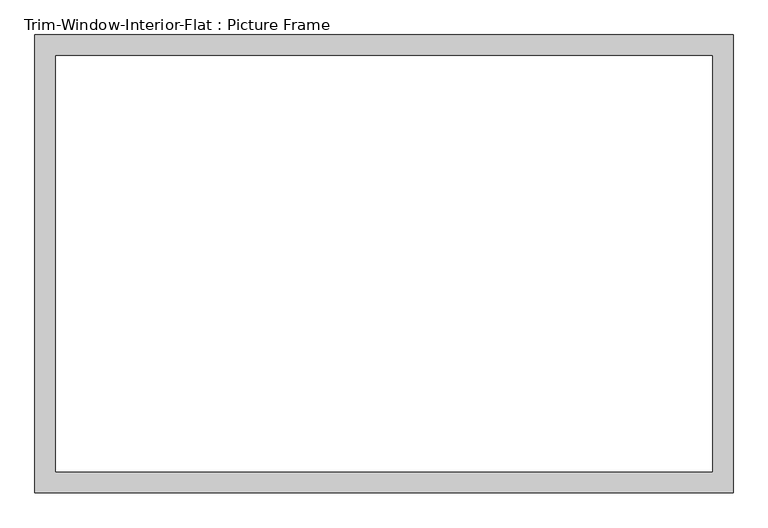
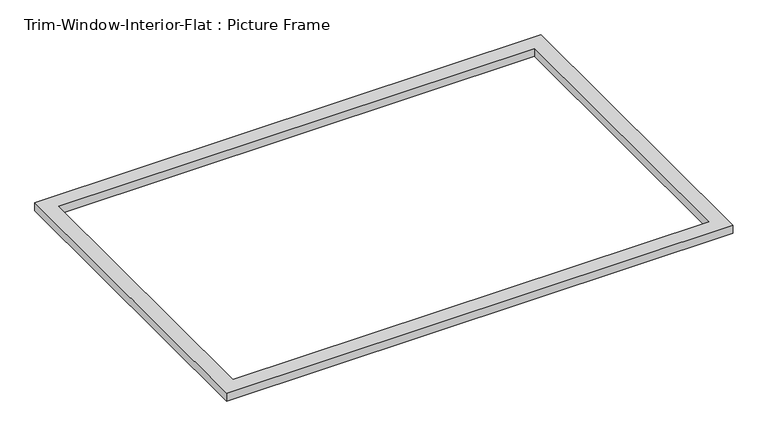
"""IFC4 building model written with IfcOpenShell, lengths in millimetres: proxy geometry, Trim-Window-Interior-Flat : Picture Frame."""

from ifc_helpers import new_model, si_unit, origin, origin_with_axes, place, context, project, spatial, polyline, outline, extrude, source, transform, mapped, element, save


def trim_window_interior_flat_picture_frame_a9dea4fc(model_context):
    return source(origin(), model_context, "Body", "SweptSolid", [
        extrude(outline(polyline([(958.85, -44.45), (-958.85, -44.45), (-958.85, 1212.85), (958.85, 1212.85), (958.85, -44.45)]), holes=[polyline([(901.7, 12.7), (901.7, 1155.7), (-901.7, 1155.7), (-901.7, 12.7), (901.7, 12.7)])]), origin_with_axes(), (0.0, 0.0, 1.0), 31.75),
    ])


if __name__ == "__main__":
    model = new_model("IFC4")
    model_context = context("Model", 3, world=origin())
    ifc_project = project(units=[si_unit("LENGTHUNIT", "METRE", prefix="MILLI")], contexts=[model_context])
    site = spatial("IfcSite", under=ifc_project)
    building = spatial("IfcBuilding", under=site)
    placement = place(None, origin())
    trim_window_interior_flat_picture_frame_shape = trim_window_interior_flat_picture_frame_a9dea4fc(model_context)
    element("IfcBuildingElementProxy", 1, Name="Trim-Window-Interior-Flat : Picture Frame", ObjectType="Trim-Window-Interior-Flat : Picture Frame", at=placement, inside=building, context=model_context, shape_type="MappedRepresentation", body=[
        mapped(trim_window_interior_flat_picture_frame_shape, transform((0.0, 0.0, 0.0), x_axis=(1.0, 0.0, 0.0), y_axis=(0.0, 1.0, 0.0), z_axis=(0.0, 0.0, 1.0))),
    ])
    save(model, "model.ifc")
